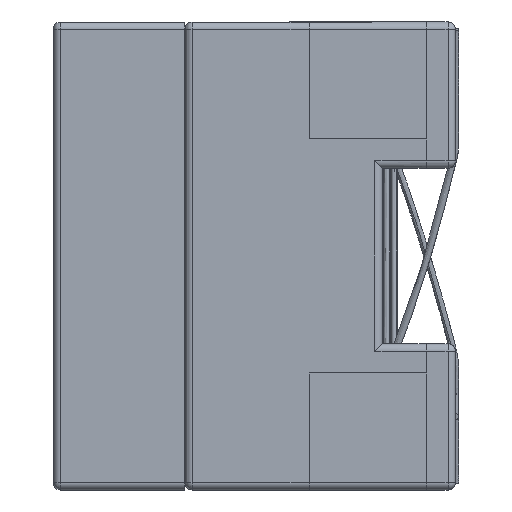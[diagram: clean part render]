
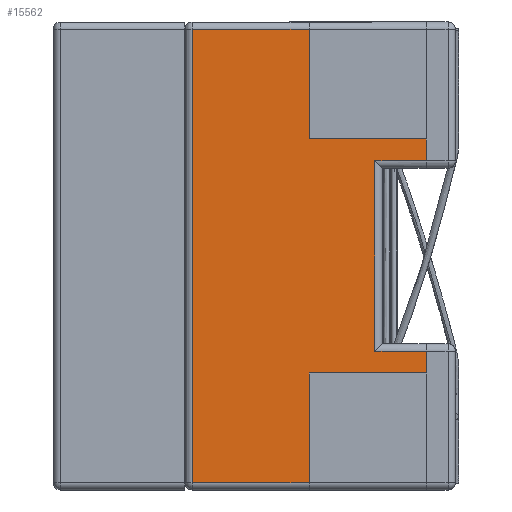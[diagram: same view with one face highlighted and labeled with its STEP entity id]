
A CAD part, left-side view. The second image highlights one B-rep face of the part: STEP entity #15562.
In plain terms, the highlighted planar face has unit normal (-1, 0, 0).
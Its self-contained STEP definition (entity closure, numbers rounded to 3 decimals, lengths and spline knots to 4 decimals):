
#383 = CARTESIAN_POINT ( 'NONE',  ( -2.25, 0.8, -1.55 ) ) ;
#906 = LINE ( 'NONE', #19182, #21238 ) ;
#934 = VERTEX_POINT ( 'NONE', #2819 ) ;
#1078 = CARTESIAN_POINT ( 'NONE',  ( -2.25, -0.45, 0.65 ) ) ;
#1759 = DIRECTION ( 'NONE',  ( 0., 1., 0. ) ) ;
#2154 = DIRECTION ( 'NONE',  ( -1., 0., 0. ) ) ;
#2426 = VERTEX_POINT ( 'NONE', #31261 ) ;
#2444 = DIRECTION ( 'NONE',  ( 0., -1., 0. ) ) ;
#2795 = DIRECTION ( 'NONE',  ( 0., 1., 0. ) ) ;
#2819 = CARTESIAN_POINT ( 'NONE',  ( -2.25, -0.8, -0.65 ) ) ;
#3027 = ORIENTED_EDGE ( 'NONE', *, *, #28719, .T. ) ;
#3428 = LINE ( 'NONE', #6079, #10344 ) ;
#3570 = ORIENTED_EDGE ( 'NONE', *, *, #33755, .T. ) ;
#3929 = VECTOR ( 'NONE', #28786, 1000. ) ;
#4382 = LINE ( 'NONE', #22670, #11643 ) ;
#4437 = ORIENTED_EDGE ( 'NONE', *, *, #11614, .T. ) ;
#5124 = EDGE_CURVE ( 'NONE', #19814, #26772, #4382, .T. ) ;
#5438 = VECTOR ( 'NONE', #26199, 1000. ) ;
#5775 = ORIENTED_EDGE ( 'NONE', *, *, #18026, .T. ) ;
#6079 = CARTESIAN_POINT ( 'NONE',  ( -2.25, 0., 0. ) ) ;
#6095 = EDGE_CURVE ( 'NONE', #2426, #37197, #3428, .T. ) ;
#7196 = CARTESIAN_POINT ( 'NONE',  ( -2.25, 0., 1.55 ) ) ;
#7450 = VECTOR ( 'NONE', #2444, 1000. ) ;
#8059 = CARTESIAN_POINT ( 'NONE',  ( -2.25, 0., 0. ) ) ;
#10083 = DIRECTION ( 'NONE',  ( 0., -1., 0. ) ) ;
#10344 = VECTOR ( 'NONE', #19060, 1000. ) ;
#11015 = VECTOR ( 'NONE', #39001, 1000. ) ;
#11308 = LINE ( 'NONE', #23895, #19502 ) ;
#11459 = DIRECTION ( 'NONE',  ( 0., 0., 1. ) ) ;
#11512 = CARTESIAN_POINT ( 'NONE',  ( -2.25, -0.8, -0.8 ) ) ;
#11614 = EDGE_CURVE ( 'NONE', #29360, #24378, #14035, .T. ) ;
#11643 = VECTOR ( 'NONE', #10083, 1000. ) ;
#11835 = VERTEX_POINT ( 'NONE', #13843 ) ;
#12184 = VECTOR ( 'NONE', #11459, 1000. ) ;
#13481 = LINE ( 'NONE', #25873, #11015 ) ;
#13591 = VERTEX_POINT ( 'NONE', #34279 ) ;
#13804 = CARTESIAN_POINT ( 'NONE',  ( -2.25, 0., -1.55 ) ) ;
#13843 = CARTESIAN_POINT ( 'NONE',  ( -2.25, -0.45, -0.65 ) ) ;
#14003 = LINE ( 'NONE', #13804, #5438 ) ;
#14035 = LINE ( 'NONE', #22570, #16839 ) ;
#14043 = DIRECTION ( 'NONE',  ( 0., 0., 1. ) ) ;
#14401 = EDGE_CURVE ( 'NONE', #37197, #29360, #16796, .T. ) ;
#14492 = LINE ( 'NONE', #39276, #12184 ) ;
#14546 = DIRECTION ( 'NONE',  ( 0., 0., -1. ) ) ;
#15215 = EDGE_CURVE ( 'NONE', #37452, #2426, #11308, .T. ) ;
#15372 = ORIENTED_EDGE ( 'NONE', *, *, #14401, .T. ) ;
#15562 = ADVANCED_FACE ( 'NONE', ( #38728 ), #36280, .T. ) ;
#16528 = EDGE_CURVE ( 'NONE', #26772, #934, #906, .T. ) ;
#16796 = LINE ( 'NONE', #35087, #3929 ) ;
#16839 = VECTOR ( 'NONE', #38617, 1000. ) ;
#18026 = EDGE_CURVE ( 'NONE', #38200, #37452, #14492, .T. ) ;
#18212 = ORIENTED_EDGE ( 'NONE', *, *, #31574, .T. ) ;
#19060 = DIRECTION ( 'NONE',  ( 0., 0., 1. ) ) ;
#19182 = CARTESIAN_POINT ( 'NONE',  ( -2.25, -0.8, 0. ) ) ;
#19502 = VECTOR ( 'NONE', #1759, 1000. ) ;
#19578 = CARTESIAN_POINT ( 'NONE',  ( -2.25, -0.8, 0.8 ) ) ;
#19814 = VERTEX_POINT ( 'NONE', #31442 ) ;
#20117 = ORIENTED_EDGE ( 'NONE', *, *, #6095, .T. ) ;
#21238 = VECTOR ( 'NONE', #35236, 1000. ) ;
#21903 = ORIENTED_EDGE ( 'NONE', *, *, #37854, .T. ) ;
#22570 = CARTESIAN_POINT ( 'NONE',  ( -2.25, 0.8, 0. ) ) ;
#22670 = CARTESIAN_POINT ( 'NONE',  ( -2.25, 0., -0.8 ) ) ;
#23895 = CARTESIAN_POINT ( 'NONE',  ( -2.25, 0., 0.8 ) ) ;
#24188 = LINE ( 'NONE', #36776, #7450 ) ;
#24378 = VERTEX_POINT ( 'NONE', #383 ) ;
#24571 = CARTESIAN_POINT ( 'NONE',  ( -2.25, 0.8, 1.55 ) ) ;
#25873 = CARTESIAN_POINT ( 'NONE',  ( -2.25, 0., 0. ) ) ;
#26199 = DIRECTION ( 'NONE',  ( 0., -1., 0. ) ) ;
#26637 = CARTESIAN_POINT ( 'NONE',  ( -2.25, -0.45, 0.6 ) ) ;
#26772 = VERTEX_POINT ( 'NONE', #11512 ) ;
#27312 = AXIS2_PLACEMENT_3D ( 'NONE', #8059, #2154, #14546 ) ;
#28606 = VERTEX_POINT ( 'NONE', #1078 ) ;
#28719 = EDGE_CURVE ( 'NONE', #13591, #19814, #13481, .T. ) ;
#28786 = DIRECTION ( 'NONE',  ( 0., 1., 0. ) ) ;
#29360 = VERTEX_POINT ( 'NONE', #24571 ) ;
#29484 = LINE ( 'NONE', #26637, #39864 ) ;
#29869 = ORIENTED_EDGE ( 'NONE', *, *, #30925, .T. ) ;
#30632 = LINE ( 'NONE', #33479, #36608 ) ;
#30925 = EDGE_CURVE ( 'NONE', #11835, #28606, #29484, .T. ) ;
#31261 = CARTESIAN_POINT ( 'NONE',  ( -2.25, 0., 0.8 ) ) ;
#31442 = CARTESIAN_POINT ( 'NONE',  ( -2.25, 0., -0.8 ) ) ;
#31574 = EDGE_CURVE ( 'NONE', #28606, #38200, #24188, .T. ) ;
#31972 = ORIENTED_EDGE ( 'NONE', *, *, #15215, .T. ) ;
#33479 = CARTESIAN_POINT ( 'NONE',  ( -2.25, 0., -0.65 ) ) ;
#33755 = EDGE_CURVE ( 'NONE', #934, #11835, #30632, .T. ) ;
#34059 = EDGE_LOOP ( 'NONE', ( #21903, #3027, #40154, #35950, #3570, #29869, #18212, #5775, #31972, #20117, #15372, #4437 ) ) ;
#34279 = CARTESIAN_POINT ( 'NONE',  ( -2.25, 0., -1.55 ) ) ;
#35087 = CARTESIAN_POINT ( 'NONE',  ( -2.25, 0., 1.55 ) ) ;
#35236 = DIRECTION ( 'NONE',  ( 0., 0., 1. ) ) ;
#35950 = ORIENTED_EDGE ( 'NONE', *, *, #16528, .T. ) ;
#36280 = PLANE ( 'NONE',  #27312 ) ;
#36328 = CARTESIAN_POINT ( 'NONE',  ( -2.25, -0.8, 0.65 ) ) ;
#36608 = VECTOR ( 'NONE', #2795, 1000. ) ;
#36776 = CARTESIAN_POINT ( 'NONE',  ( -2.25, 0., 0.65 ) ) ;
#37197 = VERTEX_POINT ( 'NONE', #7196 ) ;
#37452 = VERTEX_POINT ( 'NONE', #19578 ) ;
#37854 = EDGE_CURVE ( 'NONE', #24378, #13591, #14003, .T. ) ;
#38200 = VERTEX_POINT ( 'NONE', #36328 ) ;
#38617 = DIRECTION ( 'NONE',  ( 0., 0., -1. ) ) ;
#38728 = FACE_OUTER_BOUND ( 'NONE', #34059, .T. ) ;
#39001 = DIRECTION ( 'NONE',  ( 0., 0., 1. ) ) ;
#39276 = CARTESIAN_POINT ( 'NONE',  ( -2.25, -0.8, 0. ) ) ;
#39864 = VECTOR ( 'NONE', #14043, 1000. ) ;
#40154 = ORIENTED_EDGE ( 'NONE', *, *, #5124, .T. ) ;
